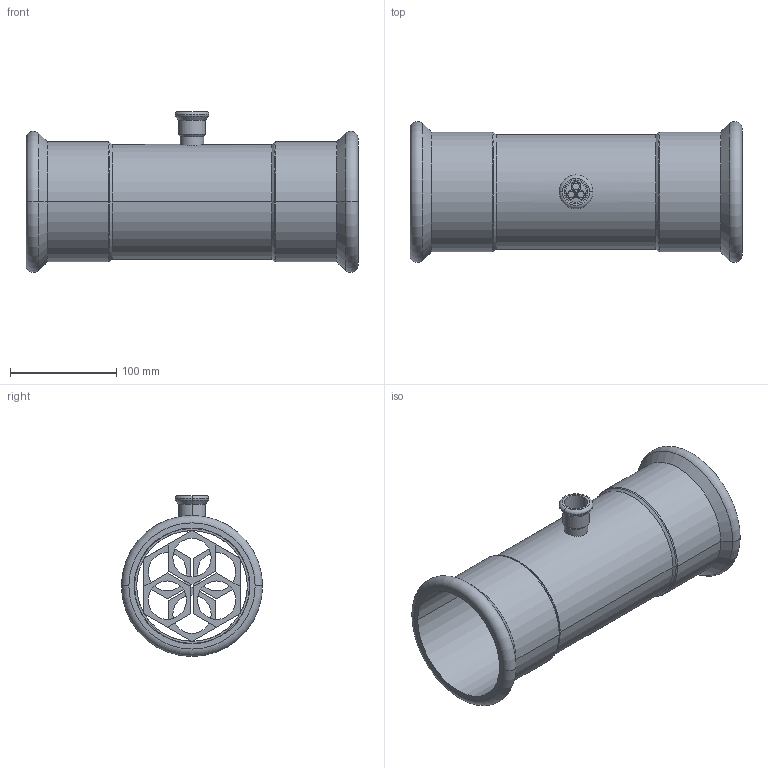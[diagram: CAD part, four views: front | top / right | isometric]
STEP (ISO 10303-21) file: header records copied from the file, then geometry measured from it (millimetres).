
FILE_DESCRIPTION(('OneSpaceDesigner STEP Export'),'2;1');
FILE_NAME('R2715 108x22x108.stp','2010-06-10T 9:38:08',(''),(''),'OneSpace Designer STEP processor for AP214 (Solid Model)','OneSpace Modeling 15.00A 14-Mar-2007 (C) CoCreate Software GmbH','');
FILE_SCHEMA(('AUTOMOTIVE_DESIGN { 1 0 10303 214 1 1 1 1 }'));
Length unit declared in the file: millimetre
Products named in the file (2): R2715_108x22x108
Assembly tree (1 placements, depth 2):
  R2715_108x22x108
    R2715_108x22x108
Bounding box: 312 x 132.58 x 151.29 mm (x, y, z)
Volume: 341215.2 mm3; surface area: 246535.4 mm2
Topology: 1 solids, 1 shells, 168 faces, 419 edges, 270 vertices
Faces by surface type: plane 90, cylinder 54, torus 12, cone 12
Entity records: 5543 total; most frequent: CARTESIAN_POINT 1830, ORIENTED_EDGE 838, DIRECTION 647, EDGE_CURVE 419, VERTEX_POINT 270, VECTOR 263, LINE 263, EDGE_LOOP 205
